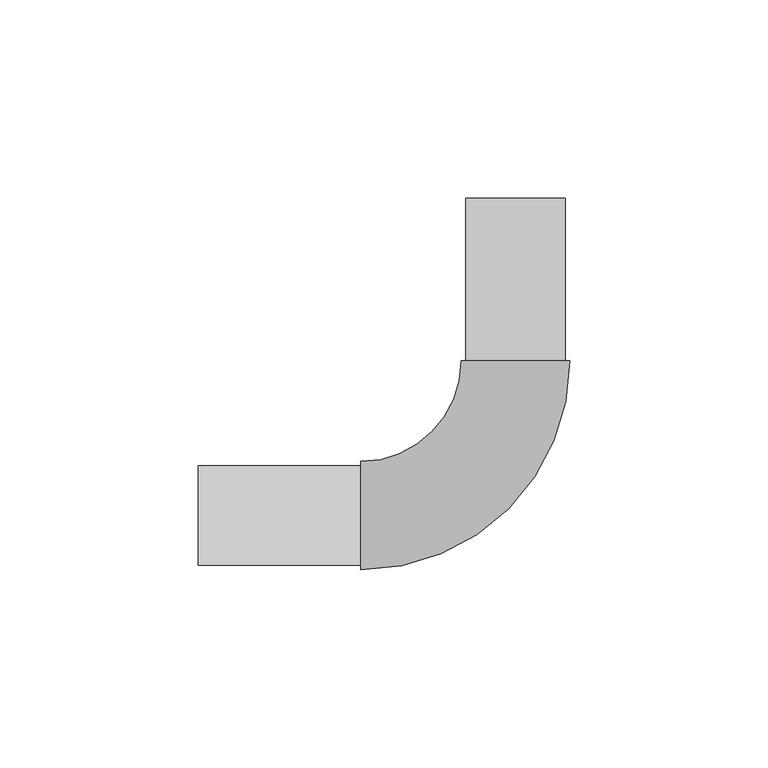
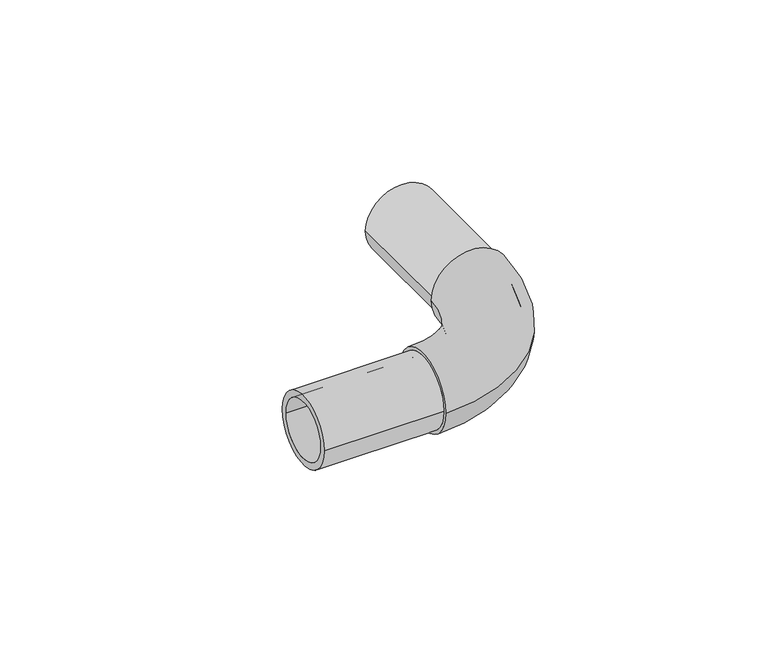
"""IFC4 building model written with IfcOpenShell, lengths in millimetres: pipe fitting geometry, ADSK_ФитингСварнойПЭ_Отвод : Стандартная."""

import ifcopenshell
import ifcopenshell.guid

model = None  # the IFC model being written
_history = None  # IfcOwnerHistory: only IFC2X3 demands one
_inside = {}  # id of a spatial element -> (the spatial element, [elements in it])
_under = {}  # id of a project, library or spatial element -> (it, [spatial elements below it])
_declared = {}  # id of a project -> (the project, [libraries it declares])
_typed = {}  # id of a type object -> (the type object, [elements of that type])
_made_of = {}  # id of a material, layer set ... -> (it, [elements and type objects made of it])


def new_model(schema):
    """Start an empty IFC model of exactly this schema.

    Asked for "IFC4X3", IfcOpenShell would pick the latest addendum, in which some entities
    have other attributes; the version numbers below select the first issue.
    IFC2X3 requires an IfcOwnerHistory on every rooted entity: one is made here for all.
    """
    global model, _history
    if schema == "IFC4X3":
        model = ifcopenshell.file(schema_version=(4, 3, 0, 0))
    else:
        model = ifcopenshell.file(schema=schema)
    _inside.clear()
    _under.clear()
    _declared.clear()
    _typed.clear()
    _made_of.clear()
    _history = None
    if model.schema == "IFC2X3":
        org = make("IfcOrganization", Name="unknown")
        user = make(
            "IfcPersonAndOrganization",
            ThePerson=make("IfcPerson", FamilyName="unknown"),
            TheOrganization=org,
        )
        app = make(
            "IfcApplication",
            ApplicationDeveloper=org,
            Version="unknown",
            ApplicationFullName="unknown",
            ApplicationIdentifier="unknown",
        )
        _history = make(
            "IfcOwnerHistory",
            OwningUser=user,
            OwningApplication=app,
            ChangeAction="ADDED",
            CreationDate=0,
        )
    return model


def make(cls, **values):
    """One entity of the class cls with the attributes given. An attribute that is None is left unset."""
    return model.create_entity(
        cls, **{name: value for name, value in values.items() if value is not None}
    )


def rooted(cls, **values):
    """An entity with a GlobalId (a new one), such as an element, a storey or a relation."""
    return make(cls, GlobalId=ifcopenshell.guid.new(), OwnerHistory=_history, **values)


def si_unit(unit_type, name, prefix=None):
    """IfcSIUnit, for example si_unit("LENGTHUNIT", "METRE", prefix="MILLI")."""
    return make("IfcSIUnit", UnitType=unit_type, Prefix=prefix, Name=name)


def assignment(units):
    """IfcUnitAssignment: the units of a project."""
    return None if units is None else make("IfcUnitAssignment", Units=units)


def point(xyz):
    """IfcCartesianPoint."""
    return None if xyz is None else make("IfcCartesianPoint", Coordinates=xyz)


def direction(xyz):
    """IfcDirection."""
    return None if xyz is None else make("IfcDirection", DirectionRatios=xyz)


def frame(location, z_axis=None, x_axis=None):
    """IfcAxis2Placement3D, a coordinate frame: its origin and axes. An axis left out is left unset."""
    return make(
        "IfcAxis2Placement3D",
        Location=point(location),
        Axis=direction(z_axis),
        RefDirection=direction(x_axis),
    )


def origin():
    """The frame at (0, 0, 0) with its axes left unset."""
    return frame((0.0, 0.0, 0.0))


def place(relative_to, where):
    """IfcLocalPlacement: puts the frame where relative to a parent placement (None: the world)."""
    return make(
        "IfcLocalPlacement", PlacementRelTo=relative_to, RelativePlacement=where
    )


def context(
    kind, dimensions, precision=None, world=None, true_north=None, identifier=None
):
    """IfcGeometricRepresentationContext, for example the 3D "Model" context."""
    return make(
        "IfcGeometricRepresentationContext",
        ContextIdentifier=identifier,
        ContextType=kind,
        CoordinateSpaceDimension=dimensions,
        Precision=precision,
        WorldCoordinateSystem=world,
        TrueNorth=true_north,
    )


def project(units=None, contexts=None):
    """IfcProject with its units and contexts."""
    return rooted(
        "IfcProject",
        Name="project",
        RepresentationContexts=contexts,
        UnitsInContext=assignment(units),
    )


def spatial(cls, under=None, at=None, **own):
    """A site, building, storey or space (cls), placed at a placement, below another one or the project."""
    s = rooted(cls, ObjectPlacement=at, **own)
    if under is not None:
        _under.setdefault(under.id(), (under, []))[1].append(s)
    return s


def polyline(points):
    """IfcPolyline through the points."""
    return make("IfcPolyline", Points=[point(p) for p in points])


def circle_curve(where, radius):
    """IfcCircle in the frame where."""
    return make("IfcCircle", Position=where, Radius=radius)


def ellipse_curve(where, semi_axis1, semi_axis2):
    """IfcEllipse in the frame where."""
    return make(
        "IfcEllipse", Position=where, SemiAxis1=semi_axis1, SemiAxis2=semi_axis2
    )


def trimmed(basis, trim1, trim2, sense, master):
    """IfcTrimmedCurve: the piece of a basis curve between two trims."""
    return make(
        "IfcTrimmedCurve",
        BasisCurve=basis,
        Trim1=trim1,
        Trim2=trim2,
        SenseAgreement=sense,
        MasterRepresentation=master,
    )


def shape(context_of_items, identifier, shape_type, items):
    """IfcShapeRepresentation: the items that make up one representation, for example the "Body"."""
    return make(
        "IfcShapeRepresentation",
        ContextOfItems=context_of_items,
        RepresentationIdentifier=identifier,
        RepresentationType=shape_type,
        Items=items,
    )


def source(mapping_origin, context_of_items, identifier, shape_type, items):
    """IfcRepresentationMap: a shape defined once, which mapped items show again and again."""
    return make(
        "IfcRepresentationMap",
        MappingOrigin=mapping_origin,
        MappedRepresentation=shape(context_of_items, identifier, shape_type, items),
    )


def transform(
    local_origin,
    x_axis=None,
    y_axis=None,
    z_axis=None,
    scale=None,
    scale2=None,
    scale3=None,
    uniform=True,
):
    """IfcCartesianTransformationOperator3D, or its non-uniform kind. x_axis, y_axis, z_axis: its Axis1, 2, 3."""
    if uniform:
        return make(
            "IfcCartesianTransformationOperator3D",
            Axis1=direction(x_axis),
            Axis2=direction(y_axis),
            LocalOrigin=point(local_origin),
            Scale=scale,
            Axis3=direction(z_axis),
        )
    return make(
        "IfcCartesianTransformationOperator3DnonUniform",
        Axis1=direction(x_axis),
        Axis2=direction(y_axis),
        LocalOrigin=point(local_origin),
        Scale=scale,
        Axis3=direction(z_axis),
        Scale2=scale2,
        Scale3=scale3,
    )


def mapped(mapping_source, mapping_target):
    """IfcMappedItem: shows the shape of a source again, moved by a transform."""
    return make(
        "IfcMappedItem", MappingSource=mapping_source, MappingTarget=mapping_target
    )


def made_of(thing, what):
    """Note that an element or type object is made of a material, layer set ...; save() writes the relation."""
    if what is not None:
        _made_of.setdefault(what.id(), (what, []))[1].append(thing)
    return thing


def element(
    cls,
    number,
    at=None,
    inside=None,
    cuts=None,
    type_object=None,
    material=None,
    context=None,
    identifier="Body",
    shape_type=None,
    held_by="IfcProductDefinitionShape",
    body=None,
    shapes=None,
    **own,
):
    """One element of the class cls, such as IfcWall. Its Tag is "e" and its number.

    at: its placement. inside: the storey or other place that contains it. cuts: it is an
    opening in that element (IfcRelVoidsElement). A single representation is given by context,
    identifier, shape_type and body (its items); several are given by shapes. held_by: the class
    of the entity that holds the representations. save() writes the other relations.
    """
    e = rooted(cls, Tag="e%d" % number, ObjectPlacement=at, **own)
    if body is not None:
        shapes = [shape(context, identifier, shape_type, body)]
    if shapes is not None:
        e.Representation = make(held_by, Representations=shapes)
    if inside is not None:
        _inside.setdefault(inside.id(), (inside, []))[1].append(e)
    if cuts is not None:
        rooted(
            "IfcRelVoidsElement", RelatingBuildingElement=cuts, RelatedOpeningElement=e
        )
    if type_object is not None:
        _typed.setdefault(type_object.id(), (type_object, []))[1].append(e)
    return made_of(e, material)


def aggregate(whole, parts):
    """IfcRelAggregates: a whole, such as a stair, and the parts it consists of."""
    return rooted("IfcRelAggregates", RelatingObject=whole, RelatedObjects=parts)


def save(model, path):
    """Write the relations noted so far, then the file.

    IfcRelAggregates (storeys below a building ...), IfcRelContainedInSpatialStructure (elements
    in a storey), IfcRelDefinesByType, IfcRelAssociatesMaterial and IfcRelDeclares: one each for
    every whole, place, type object, material and project.
    """
    for whole, parts in _under.values():
        aggregate(whole, parts)
    for where, things in _inside.values():
        rooted(
            "IfcRelContainedInSpatialStructure",
            RelatedElements=things,
            RelatingStructure=where,
        )
    for kind, things in _typed.values():
        rooted("IfcRelDefinesByType", RelatedObjects=things, RelatingType=kind)
    for what, things in _made_of.values():
        rooted("IfcRelAssociatesMaterial", RelatedObjects=things, RelatingMaterial=what)
    for by, libraries in _declared.values():
        rooted("IfcRelDeclares", RelatingContext=by, RelatedDefinitions=libraries)
    model.write(path)


def plane_surface(at):
    """IfcPlane: the flat surface through the origin of the frame at, square to its z axis."""
    return make("IfcPlane", Position=at)


def cylinder_surface(at, radius):
    """IfcCylindricalSurface: all points at the distance radius from the z axis of the frame at."""
    return make("IfcCylindricalSurface", Position=at, Radius=radius)


def revolved_surface(curve, axis_point, axis_direction):
    """IfcSurfaceOfRevolution: the curve turned about the line through axis_point along axis_direction."""
    return make(
        "IfcSurfaceOfRevolution",
        SweptCurve=make("IfcArbitraryOpenProfileDef", ProfileType="CURVE", Curve=curve),
        AxisPosition=make("IfcAxis1Placement", Location=point(axis_point), Axis=direction(axis_direction)),
    )


def advanced_brep(points, edges, surfaces, faces):
    """IfcAdvancedBrep: a solid bounded by faces that lie on surfaces and meet in shared edges.

    An edge is (start, end): straight between two places in points (the first is 0);
    or (start, end, curve); or (start, end, curve, False) where it runs against its curve.
    A face is (place in surfaces, loops), or (place, loops, False) where it looks against
    its surface's normal. A loop lists edges by number (the first is 1), with a minus sign
    where the edge is run from its end to its start. The first loop is the outer one.
    """
    corners = [point(p) for p in points]
    vertices = [make("IfcVertexPoint", VertexGeometry=c) for c in corners]
    made = []
    for start, end, *more in edges:
        made.append(
            make(
                "IfcEdgeCurve",
                EdgeStart=vertices[start],
                EdgeEnd=vertices[end],
                EdgeGeometry=more[0] if more else make("IfcPolyline", Points=[corners[start], corners[end]]),
                SameSense=more[1] if len(more) > 1 else True,
            )
        )
    hull = []
    for where, loops, *sense in faces:
        bounds = []
        for j, loop in enumerate(loops):
            ring = [make("IfcOrientedEdge", EdgeElement=made[abs(k) - 1], Orientation=k > 0) for k in loop]
            bounds.append(
                make(
                    "IfcFaceOuterBound" if j == 0 else "IfcFaceBound",
                    Bound=make("IfcEdgeLoop", EdgeList=ring),
                    Orientation=True,
                )
            )
        hull.append(make("IfcAdvancedFace", Bounds=bounds, FaceSurface=surfaces[where], SameSense=sense[0] if sense else True))
    return make("IfcAdvancedBrep", Outer=make("IfcClosedShell", CfsFaces=hull))


def pipe_fitting_4785ee25(model_context):
    return source(origin(), model_context, "Body", "AdvancedBrep", [
        advanced_brep(
        [(-39.0, -13.65, 0.0), (-39.0, 13.65, 0.0), (-39.0, -12.5, 0.0), (-39.0, 12.5, 0.0), (13.65, 39.0, 0.0), (-13.65, 39.0, 0.0), (-12.5, 39.0, 0.0), (12.5, 39.0, 0.0), (-80.0, 12.5, 0.0), (-80.0, -12.5, 0.0), (-80.0, 10.2, 0.0), (-80.0, -10.2, 0.0), (-39.0, 10.2, 0.0), (-39.0, 0.0, 10.2), (-39.0, -10.2, 0.0), (-39.0, 0.0, -10.2), (12.5, 80.0, 0.0), (-12.5, 80.0, 0.0), (10.2, 80.0, 0.0), (-10.2, 80.0, 0.0), (10.2, 39.0, 0.0), (0.0, 39.0, 10.2), (-10.2, 39.0, 0.0), (0.0, 39.0, -10.2)],
        [
            (0, 1, circle_curve(frame((-39.0, 0.0, 0.0), z_axis=(-1.0, 0.0, 0.0), x_axis=(0.0, 1.0, 0.0)), 13.65)),
            (1, 0, circle_curve(frame((-39.0, 0.0, 0.0), z_axis=(-1.0, 0.0, 0.0), x_axis=(0.0, 1.0, 0.0)), 13.65)),
            (2, 3, circle_curve(frame((-39.0, 0.0, 0.0), z_axis=(1.0, 0.0, 0.0), x_axis=(0.0, -1.0, 0.0)), 12.5)),
            (3, 2, circle_curve(frame((-39.0, 0.0, 0.0), z_axis=(1.0, 0.0, 0.0), x_axis=(0.0, -1.0, 0.0)), 12.5)),
            (4, 5, circle_curve(frame((0.0, 39.0, 0.0), z_axis=(0.0, 1.0, 0.0), x_axis=(-1.0, 0.0, 0.0)), 13.65)),
            (5, 4, circle_curve(frame((0.0, 39.0, 0.0), z_axis=(0.0, 1.0, 0.0), x_axis=(-1.0, 0.0, 0.0)), 13.65)),
            (6, 7, circle_curve(frame((0.0, 39.0, 0.0), z_axis=(0.0, -1.0, 0.0), x_axis=(-1.0, 0.0, 0.0)), 12.5)),
            (7, 6, circle_curve(frame((0.0, 39.0, 0.0), z_axis=(0.0, -1.0, 0.0), x_axis=(-1.0, 0.0, 0.0)), 12.5)),
            (0, 4, circle_curve(frame((-39.0, 39.0, 0.0), z_axis=(0.0, 0.0, 1.0), x_axis=(0.0, -1.0, 0.0)), 52.65)),
            (5, 1, circle_curve(frame((-39.0, 39.0, 0.0), z_axis=(0.0, 0.0, -1.0), x_axis=(0.0, -1.0, 0.0)), 25.35)),
            (8, 9, circle_curve(frame((-80.0, 0.0, 0.0), z_axis=(-1.0, 0.0, 0.0), x_axis=(0.0, -1.0, 0.0)), 12.5)),
            (9, 8, circle_curve(frame((-80.0, 0.0, 0.0), z_axis=(-1.0, 0.0, 0.0), x_axis=(0.0, -1.0, 0.0)), 12.5)),
            (10, 11, circle_curve(frame((-80.0, 0.0, 0.0), z_axis=(1.0, 0.0, 0.0), x_axis=(0.0, -1.0, 0.0)), 10.2)),
            (11, 10, circle_curve(frame((-80.0, 0.0, 0.0), z_axis=(1.0, 0.0, 0.0), x_axis=(0.0, -1.0, 0.0)), 10.2)),
            (8, 3),
            (2, 9),
            (10, 12),
            (12, 13, circle_curve(frame((-39.0, 0.0, 0.0), z_axis=(1.0, 0.0, 0.0), x_axis=(0.0, -1.0, 0.0)), 10.2)),
            (13, 14, circle_curve(frame((-39.0, 0.0, 0.0), z_axis=(1.0, 0.0, 0.0), x_axis=(0.0, -1.0, 0.0)), 10.2)),
            (14, 11),
            (14, 15, circle_curve(frame((-39.0, 0.0, 0.0), z_axis=(1.0, 0.0, 0.0), x_axis=(0.0, -1.0, 0.0)), 10.2)),
            (15, 12, circle_curve(frame((-39.0, 0.0, 0.0), z_axis=(1.0, 0.0, 0.0), x_axis=(0.0, -1.0, 0.0)), 10.2)),
            (16, 17, circle_curve(frame((0.0, 80.0, 0.0), z_axis=(0.0, 1.0, 0.0), x_axis=(-1.0, 0.0, 0.0)), 12.5)),
            (17, 16, circle_curve(frame((0.0, 80.0, 0.0), z_axis=(0.0, 1.0, 0.0), x_axis=(-1.0, 0.0, 0.0)), 12.5)),
            (18, 19, circle_curve(frame((0.0, 80.0, 0.0), z_axis=(0.0, -1.0, 0.0), x_axis=(-1.0, 0.0, 0.0)), 10.2)),
            (19, 18, circle_curve(frame((0.0, 80.0, 0.0), z_axis=(0.0, -1.0, 0.0), x_axis=(-1.0, 0.0, 0.0)), 10.2)),
            (18, 20),
            (20, 21, circle_curve(frame((0.0, 39.0, 0.0), z_axis=(0.0, -1.0, 0.0), x_axis=(-1.0, 0.0, 0.0)), 10.2)),
            (21, 22, circle_curve(frame((0.0, 39.0, 0.0), z_axis=(0.0, -1.0, 0.0), x_axis=(-1.0, 0.0, 0.0)), 10.2)),
            (22, 19),
            (22, 23, circle_curve(frame((0.0, 39.0, 0.0), z_axis=(0.0, -1.0, 0.0), x_axis=(-1.0, 0.0, 0.0)), 10.2)),
            (23, 20, circle_curve(frame((0.0, 39.0, 0.0), z_axis=(0.0, -1.0, 0.0), x_axis=(-1.0, 0.0, 0.0)), 10.2)),
            (16, 7),
            (6, 17),
            (22, 12, circle_curve(frame((-39.0, 39.0, 0.0), z_axis=(0.0, 0.0, -1.0), x_axis=(0.0, -1.0, 0.0)), 28.8)),
            (14, 20, circle_curve(frame((-39.0, 39.0, 0.0), z_axis=(0.0, 0.0, 1.0), x_axis=(0.0, -1.0, 0.0)), 49.2)),
        ],
        [
            plane_surface(frame((-39.0, 0.0, 0.0), z_axis=(-1.0, 0.0, 0.0), x_axis=(0.0, 0.0, 1.0))),
            plane_surface(frame((0.0, 39.0, 0.0), z_axis=(0.0, 1.0, 0.0), x_axis=(0.0, 0.0, 1.0))),
            revolved_surface(trimmed(ellipse_curve(frame((-39.0, 0.0, 0.0), z_axis=(-1.0, 0.0, 0.0), x_axis=(0.0, 1.0, 0.0)), 13.65, 13.65), [point((-39.0, -13.65, 0.0))], [point((-39.0, 13.65, 0.0))], True, "CARTESIAN"), (-39.0, 39.0, 0.0), (0.0, 0.0, 1.0)),
            revolved_surface(trimmed(ellipse_curve(frame((-39.0, 0.0, 0.0), z_axis=(-1.0, 0.0, 0.0), x_axis=(0.0, 1.0, 0.0)), 13.65, 13.65), [point((-39.0, 13.65, 0.0))], [point((-39.0, -13.65, 0.0))], True, "CARTESIAN"), (-39.0, 39.0, 0.0), (0.0, 0.0, 1.0)),
            plane_surface(frame((-80.0, 0.0, 0.0), z_axis=(-1.0, 0.0, 0.0), x_axis=(0.0, 0.0, 1.0))),
            cylinder_surface(frame((-39.0, 0.0, 0.0), z_axis=(1.0, 0.0, 0.0), x_axis=(0.0, -1.0, 0.0)), 12.5),
            revolved_surface(polyline([(-80.0, -10.2, 0.0), (-39.0, -10.2, 0.0)]), (-39.0, 0.0, 0.0), (-1.0, 0.0, 0.0)),
            plane_surface(frame((0.0, 80.0, 0.0), z_axis=(0.0, 1.0, 0.0), x_axis=(0.0, 0.0, 1.0))),
            revolved_surface(polyline([(-10.2, 80.0, 0.0), (-10.2, 39.0, 0.0)]), (0.0, 39.0, 0.0), (0.0, 1.0, 0.0)),
            cylinder_surface(frame((0.0, 39.0, 0.0), z_axis=(0.0, -1.0, 0.0), x_axis=(-1.0, 0.0, 0.0)), 12.5),
            revolved_surface(trimmed(ellipse_curve(frame((-39.0, 0.0, 0.0), z_axis=(1.0, 0.0, 0.0), x_axis=(0.0, 1.0, 0.0)), 10.2, 10.2), [point((-39.0, -10.2, 0.0))], [point((-39.0, 10.2, 0.0))], True, "CARTESIAN"), (-39.0, 39.0, 0.0), (0.0, 0.0, 1.0)),
            revolved_surface(trimmed(ellipse_curve(frame((-39.0, 0.0, 0.0), z_axis=(1.0, 0.0, 0.0), x_axis=(0.0, 1.0, 0.0)), 10.2, 10.2), [point((-39.0, 10.2, 0.0))], [point((-39.0, -10.2, 0.0))], True, "CARTESIAN"), (-39.0, 39.0, 0.0), (0.0, 0.0, 1.0)),
        ],
        [
            (0, [[1, 2], [3, 4]]),
            (1, [[5, 6], [7, 8]]),
            (2, [[-1, 9, -6, 10]]),
            (3, [[-2, -10, -5, -9]]),
            (4, [[11, 12], [13, 14]]),
            (5, [[-11, 15, -3, 16]]),
            (5, [[-12, -16, -4, -15]]),
            (6, [[-13, 17, 18, 19, 20]]),
            (6, [[-14, -20, 21, 22, -17]]),
            (7, [[23, 24], [25, 26]]),
            (8, [[-25, 27, 28, 29, 30]]),
            (8, [[-26, -30, 31, 32, -27]]),
            (9, [[-23, 33, -7, 34]]),
            (9, [[-24, -34, -8, -33]]),
            (10, [[35, -22, -21, 36, -32, -31]]),
            (11, [[-35, -29, -28, -36, -19, -18]]),
        ],
    ),
    ])


if __name__ == "__main__":
    model = new_model("IFC4")
    model_context = context("Model", 3, world=origin())
    ifc_project = project(units=[si_unit("LENGTHUNIT", "METRE", prefix="MILLI")], contexts=[model_context])
    site = spatial("IfcSite", under=ifc_project)
    building = spatial("IfcBuilding", under=site)
    placement = place(None, origin())
    pipe_fitting_shape = pipe_fitting_4785ee25(model_context)
    element("IfcPipeFitting", 1, ObjectType="ADSK_ФитингСварнойПЭ_Отвод : Стандартная", at=placement, inside=building, context=model_context, shape_type="MappedRepresentation", body=[
        mapped(pipe_fitting_shape, transform((0.0, 0.0, 0.0), x_axis=(1.0, 0.0, 0.0), y_axis=(0.0, 1.0, 0.0), z_axis=(0.0, 0.0, 1.0))),
    ])
    save(model, "model.ifc")
